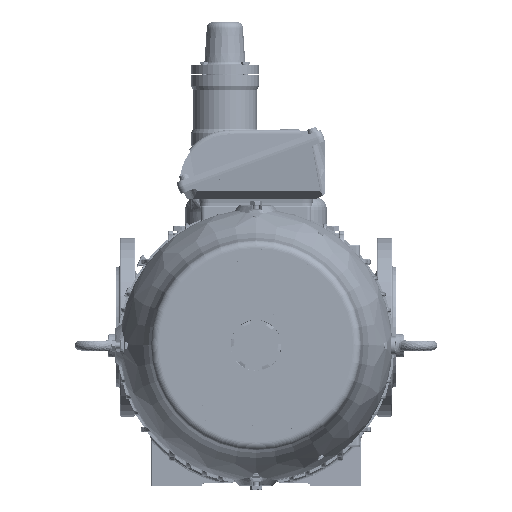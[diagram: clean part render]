
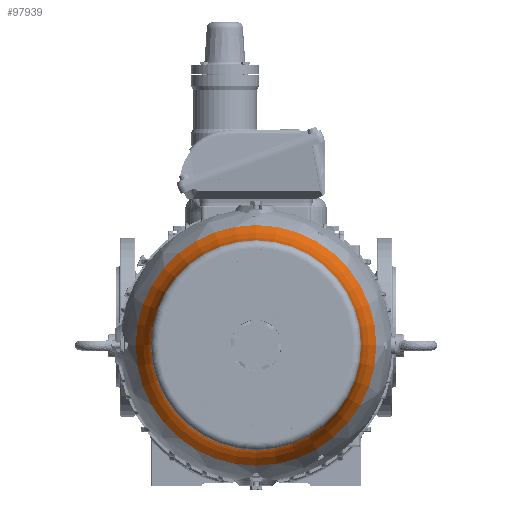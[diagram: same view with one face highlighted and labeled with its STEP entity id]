
A CAD part, top view. The second image highlights one B-rep face of the part: STEP entity #97939.
In plain terms, the highlighted toroidal (fillet/blend) face has major radius 264.661 mm and minor radius 130 mm.
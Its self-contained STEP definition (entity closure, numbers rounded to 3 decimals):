
#151=TOROIDAL_SURFACE('',#106328,264.661,130.);
#13716=FACE_OUTER_BOUND('',#19742,.T.);
#19742=EDGE_LOOP('',(#82815,#82816,#82817,#82818,#82819,#82820));
#29171=CIRCLE('',#106326,154.526);
#29172=CIRCLE('',#106327,154.526);
#29173=CIRCLE('',#106329,130.);
#29174=CIRCLE('',#106330,134.976);
#29175=CIRCLE('',#106331,134.976);
#46465=VERTEX_POINT('',#200786);
#46466=VERTEX_POINT('',#200790);
#46467=VERTEX_POINT('',#200902);
#46468=VERTEX_POINT('',#200904);
#58953=EDGE_CURVE('',#46465,#46466,#29171,.T.);
#58954=EDGE_CURVE('',#46466,#46465,#29172,.T.);
#58959=EDGE_CURVE('',#46465,#46467,#29173,.T.);
#58960=EDGE_CURVE('',#46467,#46468,#29174,.T.);
#58961=EDGE_CURVE('',#46468,#46467,#29175,.T.);
#82815=ORIENTED_EDGE('',*,*,#58954,.F.);
#82816=ORIENTED_EDGE('',*,*,#58953,.F.);
#82817=ORIENTED_EDGE('',*,*,#58959,.T.);
#82818=ORIENTED_EDGE('',*,*,#58960,.T.);
#82819=ORIENTED_EDGE('',*,*,#58961,.T.);
#82820=ORIENTED_EDGE('',*,*,#58959,.F.);
#97939=ADVANCED_FACE('',(#13716),#151,.F.);
#106326=AXIS2_PLACEMENT_3D('',#200791,#125481,#125482);
#106327=AXIS2_PLACEMENT_3D('',#200792,#125483,#125484);
#106328=AXIS2_PLACEMENT_3D('',#200901,#125485,#125486);
#106329=AXIS2_PLACEMENT_3D('',#200903,#125487,#125488);
#106330=AXIS2_PLACEMENT_3D('',#200905,#125489,#125490);
#106331=AXIS2_PLACEMENT_3D('',#200906,#125491,#125492);
#125481=DIRECTION('center_axis',(0.,0.,
-1.));
#125482=DIRECTION('ref_axis',(-1.,0.,0.));
#125483=DIRECTION('center_axis',(0.,0.,
-1.));
#125484=DIRECTION('ref_axis',(-1.,0.,0.));
#125485=DIRECTION('center_axis',(0.,0.,
-1.));
#125486=DIRECTION('ref_axis',(-1.,0.,0.));
#125487=DIRECTION('center_axis',(0.,1.,0.));
#125488=DIRECTION('ref_axis',(1.,0.,0.));
#125489=DIRECTION('center_axis',(0.,0.,
-1.));
#125490=DIRECTION('ref_axis',(-1.,0.,0.));
#125491=DIRECTION('center_axis',(0.,0.,
-1.));
#125492=DIRECTION('ref_axis',(-1.,0.,0.));
#200786=CARTESIAN_POINT('',(154.526,0.,642.164));
#200790=CARTESIAN_POINT('',(-154.526,0.,642.164));
#200791=CARTESIAN_POINT('Origin',(0.,0.,
642.164));
#200792=CARTESIAN_POINT('Origin',(0.,0.,
642.164));
#200901=CARTESIAN_POINT('Origin',(0.,0.,
711.231));
#200902=CARTESIAN_POINT('',(134.976,0.,702.195));
#200903=CARTESIAN_POINT('Origin',(264.661,0.,
711.231));
#200904=CARTESIAN_POINT('',(-134.976,0.,702.195));
#200905=CARTESIAN_POINT('Origin',(0.,0.,
702.195));
#200906=CARTESIAN_POINT('Origin',(0.,0.,
702.195));
